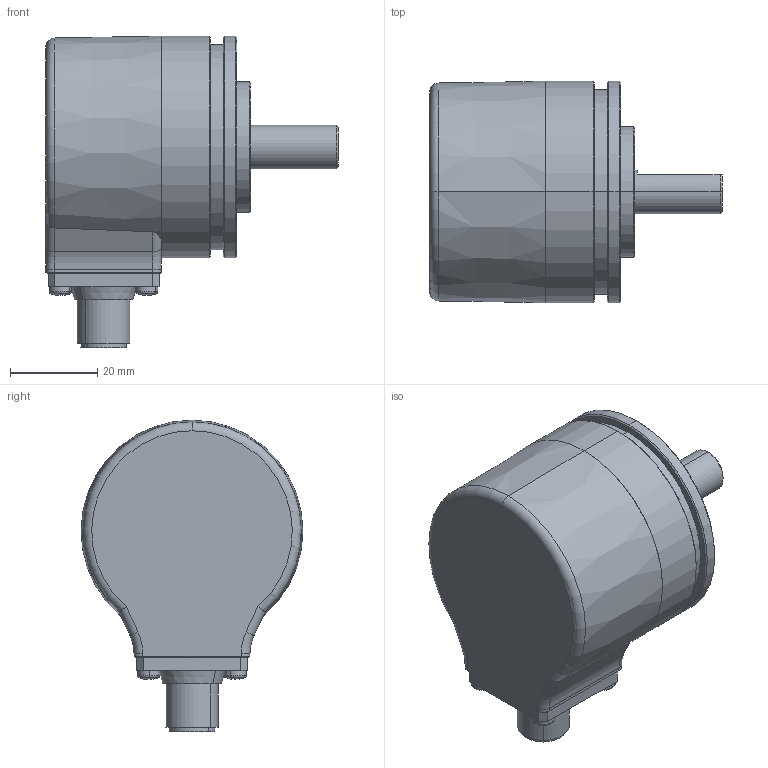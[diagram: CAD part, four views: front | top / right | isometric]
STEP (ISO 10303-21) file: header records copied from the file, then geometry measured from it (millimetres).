
FILE_DESCRIPTION (( 'STEP AP214' ), '1' );
FILE_NAME ('5000.63X4.XXXX.STEP', '2011-01-05T08:45:07', ( 'admin' ), ( 'Fritz Kübler GmbH' ), 'SwSTEP 2.0', 'SolidWorks 2009', '' );
FILE_SCHEMA (( 'AUTOMOTIVE_DESIGN' ));
Length unit declared in the file: millimetre
Products named in the file (1): 5000.63X4.XXXX
Bounding box: 67 x 50.8 x 71.4 mm (x, y, z)
Surface area: 16988.2 mm2 (no closed solid volume)
Topology: 0 solids, 17 shells, 249 faces, 707 edges, 444 vertices
Faces by surface type: plane 85, cylinder 67, sphere 44, cone 27, torus 22, bspline 4
Entity records: 10969 total; most frequent: CARTESIAN_POINT 2137, DIRECTION 1363, ORIENTED_EDGE 1152, EDGE_CURVE 623, AXIS2_PLACEMENT_3D 560, VERTEX_POINT 398, CIRCLE 314, EDGE_LOOP 295
